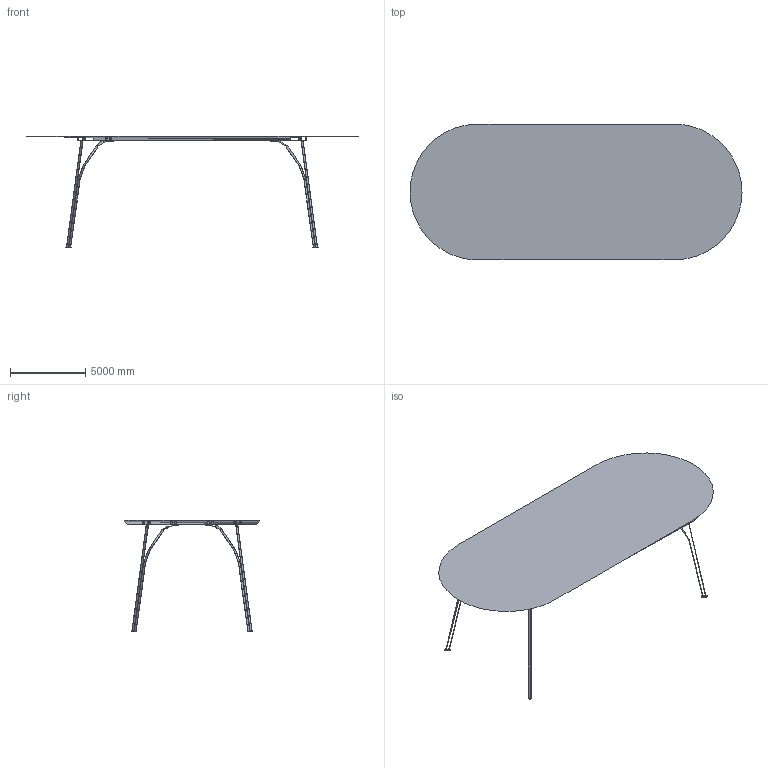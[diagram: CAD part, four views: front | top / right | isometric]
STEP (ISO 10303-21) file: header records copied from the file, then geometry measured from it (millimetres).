
FILE_DESCRIPTION(/* description */ (''),/* implementation_level */ '2;1');
FILE_NAME(/* name */ 'Tree Dining table (90 x x 220 cm)',/* time_stamp */ '2020-02-18T10:40:44+01:00',/* author */ (''),/* organization */ (''),/* preprocessor_version */ 'ST-DEVELOPER v15',/* originating_system */ '',/* authorisation */ '');
FILE_SCHEMA (('AUTOMOTIVE_DESIGN'));
Length unit declared in the file: millimetre
Products named in the file (1): Document
Bounding box: 22000 x 9000 x 7399.95 mm (x, y, z)
Volume: 53657883704.7 mm3; surface area: 449406480.9 mm2
Topology: 33 solids, 41 shells, 378 faces, 846 edges, 561 vertices
Faces by surface type: bspline 292, plane 86
Entity records: 40759 total; most frequent: CARTESIAN_POINT 35646, ORIENTED_EDGE 1596, EDGE_CURVE 818, VERTEX_POINT 534, EDGE_LOOP 502, ADVANCED_FACE 378, FACE_OUTER_BOUND 378, B_SPLINE_CURVE_WITH_KNOTS 245
